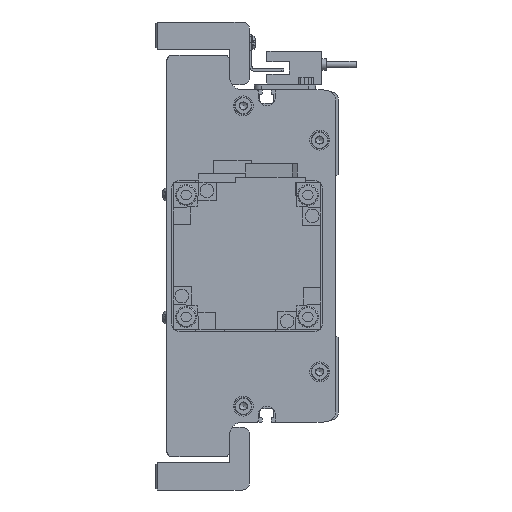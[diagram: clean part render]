
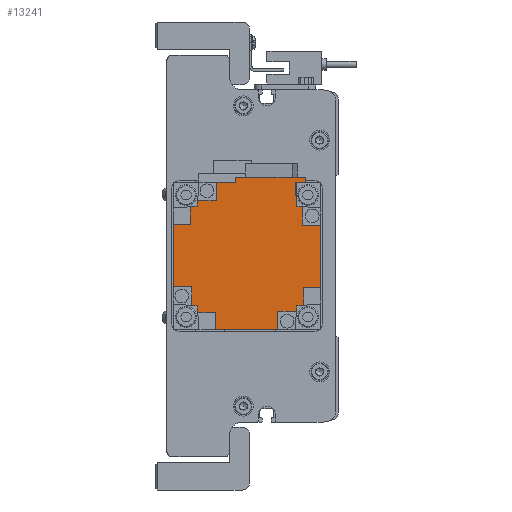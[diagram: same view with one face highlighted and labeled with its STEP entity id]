
A CAD part, left-side view. The second image highlights one B-rep face of the part: STEP entity #13241.
In plain terms, the highlighted planar face has unit normal (-1, 0, 0) as drawn and (0, 1, 0) by its records, which use the part's own axes.
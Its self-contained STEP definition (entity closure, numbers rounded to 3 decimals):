
#1286=ORIENTED_EDGE('',*,*,#4888,.T.);
#1287=ORIENTED_EDGE('',*,*,#4889,.T.);
#1288=ORIENTED_EDGE('',*,*,#4890,.T.);
#1289=ORIENTED_EDGE('',*,*,#4891,.T.);
#1290=ORIENTED_EDGE('',*,*,#4892,.T.);
#1291=ORIENTED_EDGE('',*,*,#4893,.F.);
#1292=ORIENTED_EDGE('',*,*,#4894,.F.);
#1293=ORIENTED_EDGE('',*,*,#4895,.T.);
#1294=ORIENTED_EDGE('',*,*,#4896,.T.);
#1295=ORIENTED_EDGE('',*,*,#4897,.T.);
#1296=ORIENTED_EDGE('',*,*,#4898,.T.);
#1297=ORIENTED_EDGE('',*,*,#4899,.T.);
#1298=ORIENTED_EDGE('',*,*,#4900,.F.);
#1299=ORIENTED_EDGE('',*,*,#4901,.F.);
#1300=ORIENTED_EDGE('',*,*,#4902,.T.);
#1301=ORIENTED_EDGE('',*,*,#4903,.T.);
#1302=ORIENTED_EDGE('',*,*,#4904,.T.);
#1303=ORIENTED_EDGE('',*,*,#4905,.T.);
#1304=ORIENTED_EDGE('',*,*,#4906,.T.);
#1305=ORIENTED_EDGE('',*,*,#4907,.F.);
#1306=ORIENTED_EDGE('',*,*,#4908,.F.);
#1307=ORIENTED_EDGE('',*,*,#4909,.T.);
#1308=ORIENTED_EDGE('',*,*,#4910,.F.);
#1309=ORIENTED_EDGE('',*,*,#4869,.F.);
#1310=ORIENTED_EDGE('',*,*,#4911,.T.);
#1311=ORIENTED_EDGE('',*,*,#4886,.T.);
#1312=ORIENTED_EDGE('',*,*,#4912,.T.);
#1313=ORIENTED_EDGE('',*,*,#4913,.T.);
#1314=ORIENTED_EDGE('',*,*,#4914,.F.);
#1315=ORIENTED_EDGE('',*,*,#4915,.F.);
#4869=EDGE_CURVE('',#6702,#6703,#8032,.T.);
#4886=EDGE_CURVE('',#6720,#6719,#8049,.T.);
#4888=EDGE_CURVE('',#6721,#6722,#8051,.T.);
#4889=EDGE_CURVE('',#6722,#6723,#8052,.T.);
#4890=EDGE_CURVE('',#6723,#6724,#8053,.T.);
#4891=EDGE_CURVE('',#6724,#6725,#8054,.T.);
#4892=EDGE_CURVE('',#6725,#6726,#8055,.T.);
#4893=EDGE_CURVE('',#6727,#6726,#8056,.T.);
#4894=EDGE_CURVE('',#6728,#6727,#8057,.T.);
#4895=EDGE_CURVE('',#6728,#6729,#8058,.T.);
#4896=EDGE_CURVE('',#6729,#6730,#8059,.T.);
#4897=EDGE_CURVE('',#6730,#6731,#8060,.T.);
#4898=EDGE_CURVE('',#6731,#6732,#8061,.T.);
#4899=EDGE_CURVE('',#6732,#6733,#8062,.T.);
#4900=EDGE_CURVE('',#6734,#6733,#8063,.T.);
#4901=EDGE_CURVE('',#6735,#6734,#8064,.T.);
#4902=EDGE_CURVE('',#6735,#6736,#8065,.T.);
#4903=EDGE_CURVE('',#6736,#6737,#8066,.T.);
#4904=EDGE_CURVE('',#6737,#6738,#8067,.T.);
#4905=EDGE_CURVE('',#6738,#6739,#8068,.T.);
#4906=EDGE_CURVE('',#6739,#6740,#8069,.T.);
#4907=EDGE_CURVE('',#6741,#6740,#8070,.T.);
#4908=EDGE_CURVE('',#6742,#6741,#8071,.T.);
#4909=EDGE_CURVE('',#6742,#6743,#8072,.T.);
#4910=EDGE_CURVE('',#6703,#6743,#8073,.T.);
#4911=EDGE_CURVE('',#6702,#6720,#8074,.T.);
#4912=EDGE_CURVE('',#6719,#6744,#8075,.T.);
#4913=EDGE_CURVE('',#6744,#6745,#8076,.T.);
#4914=EDGE_CURVE('',#6746,#6745,#8077,.T.);
#4915=EDGE_CURVE('',#6721,#6746,#8078,.T.);
#6702=VERTEX_POINT('',#19747);
#6703=VERTEX_POINT('',#19748);
#6719=VERTEX_POINT('',#19781);
#6720=VERTEX_POINT('',#19783);
#6721=VERTEX_POINT('',#19787);
#6722=VERTEX_POINT('',#19788);
#6723=VERTEX_POINT('',#19790);
#6724=VERTEX_POINT('',#19792);
#6725=VERTEX_POINT('',#19794);
#6726=VERTEX_POINT('',#19796);
#6727=VERTEX_POINT('',#19798);
#6728=VERTEX_POINT('',#19800);
#6729=VERTEX_POINT('',#19802);
#6730=VERTEX_POINT('',#19804);
#6731=VERTEX_POINT('',#19806);
#6732=VERTEX_POINT('',#19808);
#6733=VERTEX_POINT('',#19810);
#6734=VERTEX_POINT('',#19812);
#6735=VERTEX_POINT('',#19814);
#6736=VERTEX_POINT('',#19816);
#6737=VERTEX_POINT('',#19818);
#6738=VERTEX_POINT('',#19820);
#6739=VERTEX_POINT('',#19822);
#6740=VERTEX_POINT('',#19824);
#6741=VERTEX_POINT('',#19826);
#6742=VERTEX_POINT('',#19828);
#6743=VERTEX_POINT('',#19830);
#6744=VERTEX_POINT('',#19834);
#6745=VERTEX_POINT('',#19836);
#6746=VERTEX_POINT('',#19838);
#8032=LINE('',#19746,#9379);
#8049=LINE('',#19782,#9396);
#8051=LINE('',#19786,#9398);
#8052=LINE('',#19789,#9399);
#8053=LINE('',#19791,#9400);
#8054=LINE('',#19793,#9401);
#8055=LINE('',#19795,#9402);
#8056=LINE('',#19797,#9403);
#8057=LINE('',#19799,#9404);
#8058=LINE('',#19801,#9405);
#8059=LINE('',#19803,#9406);
#8060=LINE('',#19805,#9407);
#8061=LINE('',#19807,#9408);
#8062=LINE('',#19809,#9409);
#8063=LINE('',#19811,#9410);
#8064=LINE('',#19813,#9411);
#8065=LINE('',#19815,#9412);
#8066=LINE('',#19817,#9413);
#8067=LINE('',#19819,#9414);
#8068=LINE('',#19821,#9415);
#8069=LINE('',#19823,#9416);
#8070=LINE('',#19825,#9417);
#8071=LINE('',#19827,#9418);
#8072=LINE('',#19829,#9419);
#8073=LINE('',#19831,#9420);
#8074=LINE('',#19832,#9421);
#8075=LINE('',#19833,#9422);
#8076=LINE('',#19835,#9423);
#8077=LINE('',#19837,#9424);
#8078=LINE('',#19839,#9425);
#9379=VECTOR('',#15728,1000.);
#9396=VECTOR('',#15747,1000.);
#9398=VECTOR('',#15751,1000.);
#9399=VECTOR('',#15752,1000.);
#9400=VECTOR('',#15753,1000.);
#9401=VECTOR('',#15754,1000.);
#9402=VECTOR('',#15755,1000.);
#9403=VECTOR('',#15756,1000.);
#9404=VECTOR('',#15757,1000.);
#9405=VECTOR('',#15758,1000.);
#9406=VECTOR('',#15759,1000.);
#9407=VECTOR('',#15760,1000.);
#9408=VECTOR('',#15761,1000.);
#9409=VECTOR('',#15762,1000.);
#9410=VECTOR('',#15763,1000.);
#9411=VECTOR('',#15764,1000.);
#9412=VECTOR('',#15765,1000.);
#9413=VECTOR('',#15766,1000.);
#9414=VECTOR('',#15767,1000.);
#9415=VECTOR('',#15768,1000.);
#9416=VECTOR('',#15769,1000.);
#9417=VECTOR('',#15770,1000.);
#9418=VECTOR('',#15771,1000.);
#9419=VECTOR('',#15772,1000.);
#9420=VECTOR('',#15773,1000.);
#9421=VECTOR('',#15774,1000.);
#9422=VECTOR('',#15775,1000.);
#9423=VECTOR('',#15776,1000.);
#9424=VECTOR('',#15777,1000.);
#9425=VECTOR('',#15778,1000.);
#10670=EDGE_LOOP('',(#1286,#1287,#1288,#1289,#1290,#1291,#1292,#1293,#1294,
#1295,#1296,#1297,#1298,#1299,#1300,#1301,#1302,#1303,#1304,#1305,#1306,
#1307,#1308,#1309,#1310,#1311,#1312,#1313,#1314,#1315));
#11691=FACE_BOUND('',#10670,.T.);
#12697=PLANE('',#14143);
#13241=ADVANCED_FACE('',(#11691),#12697,.T.);
#14143=AXIS2_PLACEMENT_3D('',#19785,#15749,#15750);
#15728=DIRECTION('',(0.,0.,1.));
#15747=DIRECTION('',(0.,0.,-1.));
#15749=DIRECTION('',(0.,1.,0.));
#15750=DIRECTION('',(0.,0.,1.));
#15751=DIRECTION('',(-1.,0.,0.));
#15752=DIRECTION('',(0.,0.,-1.));
#15753=DIRECTION('',(-1.,0.,0.));
#15754=DIRECTION('',(0.,0.,1.));
#15755=DIRECTION('',(-1.,0.,0.));
#15756=DIRECTION('',(0.07,0.,-0.998));
#15757=DIRECTION('',(0.998,0.,-0.07));
#15758=DIRECTION('',(0.,0.,1.));
#15759=DIRECTION('',(-1.,0.,0.));
#15760=DIRECTION('',(0.,0.,1.));
#15761=DIRECTION('',(1.,0.,0.));
#15762=DIRECTION('',(0.,0.,1.));
#15763=DIRECTION('',(-0.998,0.,-0.07));
#15764=DIRECTION('',(-0.07,0.,-0.998));
#15765=DIRECTION('',(1.,0.,0.));
#15766=DIRECTION('',(0.,0.,1.));
#15767=DIRECTION('',(1.,0.,0.));
#15768=DIRECTION('',(0.,0.,-1.));
#15769=DIRECTION('',(1.,0.,0.));
#15770=DIRECTION('',(-0.07,0.,0.998));
#15771=DIRECTION('',(-0.998,0.,0.07));
#15772=DIRECTION('',(0.,0.,1.));
#15773=DIRECTION('',(-1.,0.,0.));
#15774=DIRECTION('',(-1.,0.,0.));
#15775=DIRECTION('',(-1.,0.,0.));
#15776=DIRECTION('',(0.,0.,-1.));
#15777=DIRECTION('',(0.998,0.,0.07));
#15778=DIRECTION('',(0.07,0.,0.998));
#19746=CARTESIAN_POINT('',(32.,130.7,-4.7));
#19747=CARTESIAN_POINT('',(32.,130.7,-4.7));
#19748=CARTESIAN_POINT('',(32.,130.7,23.7));
#19781=CARTESIAN_POINT('',(29.95,130.7,-12.5));
#19782=CARTESIAN_POINT('',(29.95,130.7,29.95));
#19783=CARTESIAN_POINT('',(29.95,130.7,-4.7));
#19785=CARTESIAN_POINT('',(0.,130.7,0.));
#19786=CARTESIAN_POINT('',(0.,130.7,-23.));
#19787=CARTESIAN_POINT('',(20.004,130.7,-23.));
#19788=CARTESIAN_POINT('',(12.8,130.7,-23.));
#19789=CARTESIAN_POINT('',(12.8,130.7,0.));
#19790=CARTESIAN_POINT('',(12.8,130.7,-29.95));
#19791=CARTESIAN_POINT('',(29.95,130.7,-29.95));
#19792=CARTESIAN_POINT('',(-12.5,130.7,-29.95));
#19793=CARTESIAN_POINT('',(-12.5,130.7,0.));
#19794=CARTESIAN_POINT('',(-12.5,130.7,-22.5));
#19795=CARTESIAN_POINT('',(0.,130.7,-22.5));
#19796=CARTESIAN_POINT('',(-20.039,130.7,-22.5));
#19797=CARTESIAN_POINT('',(-21.507,130.7,-1.504));
#19798=CARTESIAN_POINT('',(-20.2,130.7,-20.2));
#19799=CARTESIAN_POINT('',(-1.504,130.7,-21.507));
#19800=CARTESIAN_POINT('',(-23.,130.7,-20.004));
#19801=CARTESIAN_POINT('',(-23.,130.7,0.));
#19802=CARTESIAN_POINT('',(-23.,130.7,-12.8));
#19803=CARTESIAN_POINT('',(0.,130.7,-12.8));
#19804=CARTESIAN_POINT('',(-29.95,130.7,-12.8));
#19805=CARTESIAN_POINT('',(-29.95,130.7,-29.95));
#19806=CARTESIAN_POINT('',(-29.95,130.7,12.5));
#19807=CARTESIAN_POINT('',(0.,130.7,12.5));
#19808=CARTESIAN_POINT('',(-22.5,130.7,12.5));
#19809=CARTESIAN_POINT('',(-22.5,130.7,0.));
#19810=CARTESIAN_POINT('',(-22.5,130.7,20.039));
#19811=CARTESIAN_POINT('',(-1.504,130.7,21.507));
#19812=CARTESIAN_POINT('',(-20.2,130.7,20.2));
#19813=CARTESIAN_POINT('',(-21.507,130.7,1.504));
#19814=CARTESIAN_POINT('',(-20.004,130.7,23.));
#19815=CARTESIAN_POINT('',(0.,130.7,23.));
#19816=CARTESIAN_POINT('',(-12.8,130.7,23.));
#19817=CARTESIAN_POINT('',(-12.8,130.7,0.));
#19818=CARTESIAN_POINT('',(-12.8,130.7,29.95));
#19819=CARTESIAN_POINT('',(-29.95,130.7,29.95));
#19820=CARTESIAN_POINT('',(12.5,130.7,29.95));
#19821=CARTESIAN_POINT('',(12.5,130.7,0.));
#19822=CARTESIAN_POINT('',(12.5,130.7,22.5));
#19823=CARTESIAN_POINT('',(0.,130.7,22.5));
#19824=CARTESIAN_POINT('',(20.039,130.7,22.5));
#19825=CARTESIAN_POINT('',(21.507,130.7,1.504));
#19826=CARTESIAN_POINT('',(20.2,130.7,20.2));
#19827=CARTESIAN_POINT('',(1.504,130.7,21.507));
#19828=CARTESIAN_POINT('',(29.95,130.7,19.518));
#19829=CARTESIAN_POINT('',(29.95,130.7,-4.7));
#19830=CARTESIAN_POINT('',(29.95,130.7,23.7));
#19831=CARTESIAN_POINT('',(32.,130.7,23.7));
#19832=CARTESIAN_POINT('',(32.,130.7,-4.7));
#19833=CARTESIAN_POINT('',(0.,130.7,-12.5));
#19834=CARTESIAN_POINT('',(22.5,130.7,-12.5));
#19835=CARTESIAN_POINT('',(22.5,130.7,0.));
#19836=CARTESIAN_POINT('',(22.5,130.7,-20.039));
#19837=CARTESIAN_POINT('',(1.504,130.7,-21.507));
#19838=CARTESIAN_POINT('',(20.2,130.7,-20.2));
#19839=CARTESIAN_POINT('',(21.507,130.7,-1.504));
